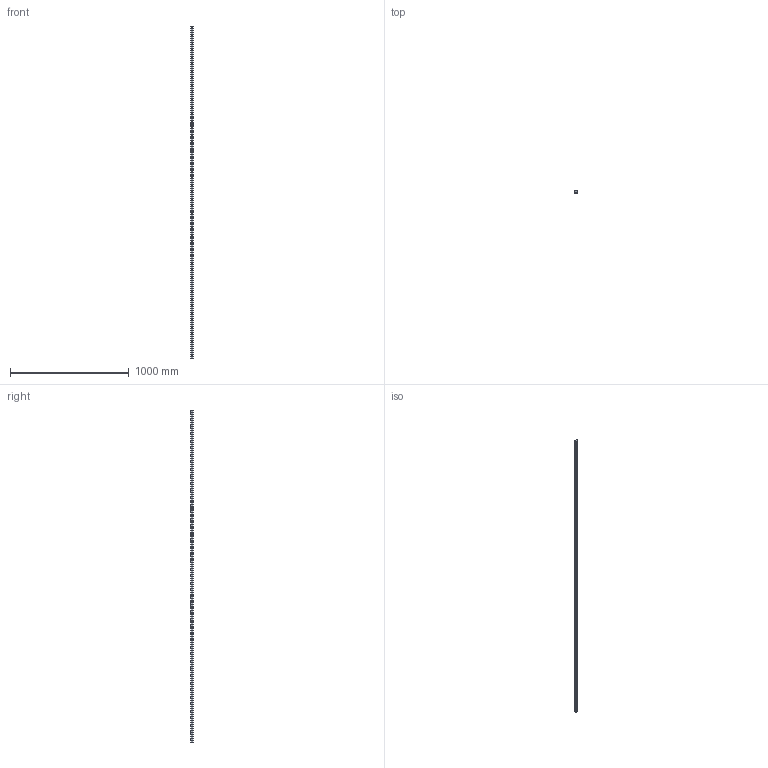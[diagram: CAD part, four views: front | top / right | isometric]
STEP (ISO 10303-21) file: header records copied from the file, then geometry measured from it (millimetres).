
FILE_DESCRIPTION (( 'STEP AP203' ), '1' );
FILE_NAME ('L1016.BL25-2800.step', '2019-06-12T12:12:38', ( '' ), ( '' ), 'SwSTEP 2.0', 'SolidWorks 2017', '' );
FILE_SCHEMA (( 'CONFIG_CONTROL_DESIGN' ));
Length unit declared in the file: millimetre
Products named in the file (1): L1016.BL25-2800
Bounding box: 23 x 19.2 x 2800 mm (x, y, z)
Volume: 1031816.2 mm3; surface area: 264975.2 mm2
Topology: 1 solids, 1 shells, 261 faces, 636 edges, 424 vertices
Faces by surface type: cylinder 192, plane 69
Entity records: 8139 total; most frequent: DIRECTION 1544, CARTESIAN_POINT 1322, ORIENTED_EDGE 1272, AXIS2_PLACEMENT_3D 646, EDGE_CURVE 636, VERTEX_POINT 424, EDGE_LOOP 402, CIRCLE 384
